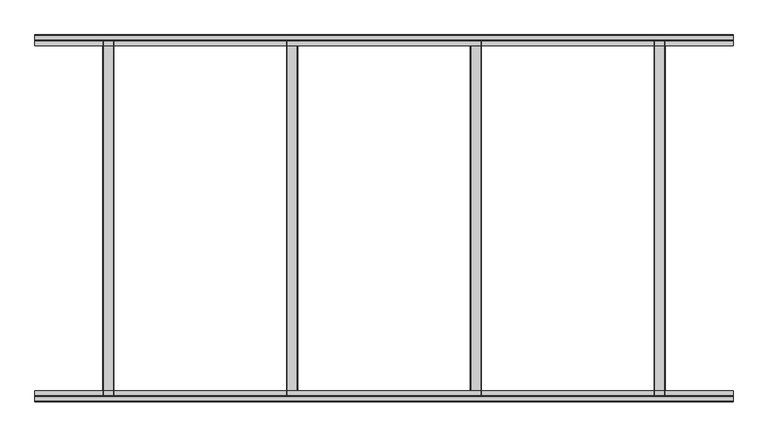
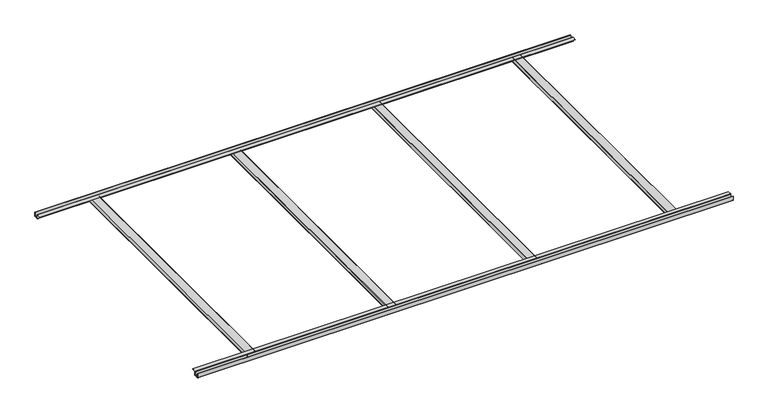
"""IFC4 building model written with IfcOpenShell, lengths in millimetres: proxy geometry, durlum_dur_SOLO_TYPE4 : durlum_dur_SOLO_TYPE4."""

from ifc_helpers import new_model, si_unit, point, frame, frame_2d, origin, place, context, project, spatial, polyline, circle_curve, trimmed, segment, composite_curve, outline, extrude, source, transform, mapped, element, save


def generic_models_94a974c4(model_context):
    return source(origin(), model_context, "Body", "SweptSolid", [
        extrude(outline(composite_curve([segment(polyline([(1719.0, -528.5), (1719.0, -518.0), (1720.5, -518.0), (1720.5, -528.5), (1747.5, -528.5), (1747.5, -471.5), (1720.5, -471.5), (1720.5, -482.0), (1719.0, -482.0), (1719.0, -471.5)]), True, "CONTINUOUS"), segment(trimmed(circle_curve(frame_2d((1720.5, -471.5)), 1.5), [point((1719.0, -471.5))], [point((1720.5, -470.0))], False, "CARTESIAN"), True, "CONTINUOUS"), segment(polyline([(1720.5, -470.0), (1747.5, -470.0)]), True, "CONTINUOUS"), segment(trimmed(circle_curve(frame_2d((1747.5, -471.5)), 1.5), [point((1747.5, -470.0))], [point((1749.0, -471.5))], False, "CARTESIAN"), True, "CONTINUOUS"), segment(polyline([(1749.0, -471.5), (1749.0, -528.5)]), True, "CONTINUOUS"), segment(trimmed(circle_curve(frame_2d((1747.5, -528.5)), 1.5), [point((1749.0, -528.5))], [point((1747.5, -530.0))], False, "CARTESIAN"), True, "CONTINUOUS"), segment(polyline([(1747.5, -530.0), (1720.5, -530.0)]), True, "CONTINUOUS"), segment(trimmed(circle_curve(frame_2d((1720.5, -528.5)), 1.5), [point((1720.5, -530.0))], [point((1719.0, -528.5))], False, "CARTESIAN"), True, "CONTINUOUS")], self_intersect=False)), frame((0.0, -967.0, 0.0), z_axis=(0.0, 1.0, 0.0), x_axis=(0.0, 0.0, 1.0)), (0.0, 0.0, 1.0), 1934.0),
        extrude(outline(composite_curve([segment(polyline([(1719.0, 471.5), (1719.0, 482.0), (1720.5, 482.0), (1720.5, 471.5), (1747.5, 471.5), (1747.5, 528.5), (1720.5, 528.5), (1720.5, 518.0), (1719.0, 518.0), (1719.0, 528.5)]), True, "CONTINUOUS"), segment(trimmed(circle_curve(frame_2d((1720.5, 528.5)), 1.5), [point((1719.0, 528.5))], [point((1720.5, 530.0))], False, "CARTESIAN"), True, "CONTINUOUS"), segment(polyline([(1720.5, 530.0), (1747.5, 530.0)]), True, "CONTINUOUS"), segment(trimmed(circle_curve(frame_2d((1747.5, 528.5)), 1.5), [point((1747.5, 530.0))], [point((1749.0, 528.5))], False, "CARTESIAN"), True, "CONTINUOUS"), segment(polyline([(1749.0, 528.5), (1749.0, 471.5)]), True, "CONTINUOUS"), segment(trimmed(circle_curve(frame_2d((1747.5, 471.5)), 1.5), [point((1749.0, 471.5))], [point((1747.5, 470.0))], False, "CARTESIAN"), True, "CONTINUOUS"), segment(polyline([(1747.5, 470.0), (1720.5, 470.0)]), True, "CONTINUOUS"), segment(trimmed(circle_curve(frame_2d((1720.5, 471.5)), 1.5), [point((1720.5, 470.0))], [point((1719.0, 471.5))], False, "CARTESIAN"), True, "CONTINUOUS")], self_intersect=False)), frame((0.0, -967.0, 0.0), z_axis=(0.0, 1.0, 0.0), x_axis=(0.0, 0.0, 1.0)), (0.0, 0.0, 1.0), 1934.0),
        extrude(outline(composite_curve([segment(polyline([(1719.0, -1528.5), (1719.0, -1518.0), (1720.5, -1518.0), (1720.5, -1528.5), (1747.5, -1528.5), (1747.5, -1471.5), (1720.5, -1471.5), (1720.5, -1482.0), (1719.0, -1482.0), (1719.0, -1471.5)]), True, "CONTINUOUS"), segment(trimmed(circle_curve(frame_2d((1720.5, -1471.5)), 1.5), [point((1719.0, -1471.5))], [point((1720.5, -1470.0))], False, "CARTESIAN"), True, "CONTINUOUS"), segment(polyline([(1720.5, -1470.0), (1747.5, -1470.0)]), True, "CONTINUOUS"), segment(trimmed(circle_curve(frame_2d((1747.5, -1471.5)), 1.5), [point((1747.5, -1470.0))], [point((1749.0, -1471.5))], False, "CARTESIAN"), True, "CONTINUOUS"), segment(polyline([(1749.0, -1471.5), (1749.0, -1528.5)]), True, "CONTINUOUS"), segment(trimmed(circle_curve(frame_2d((1747.5, -1528.5)), 1.5), [point((1749.0, -1528.5))], [point((1747.5, -1530.0))], False, "CARTESIAN"), True, "CONTINUOUS"), segment(polyline([(1747.5, -1530.0), (1720.5, -1530.0)]), True, "CONTINUOUS"), segment(trimmed(circle_curve(frame_2d((1720.5, -1528.5)), 1.5), [point((1720.5, -1530.0))], [point((1719.0, -1528.5))], False, "CARTESIAN"), True, "CONTINUOUS")], self_intersect=False)), frame((0.0, -967.0, 0.0), z_axis=(0.0, 1.0, 0.0), x_axis=(0.0, 0.0, 1.0)), (0.0, 0.0, 1.0), 1934.0),
        extrude(outline(composite_curve([segment(polyline([(1719.0, 1471.5), (1719.0, 1482.0), (1720.5, 1482.0), (1720.5, 1471.5), (1747.5, 1471.5), (1747.5, 1528.5), (1720.5, 1528.5), (1720.5, 1518.0), (1719.0, 1518.0), (1719.0, 1528.5)]), True, "CONTINUOUS"), segment(trimmed(circle_curve(frame_2d((1720.5, 1528.5)), 1.5), [point((1719.0, 1528.5))], [point((1720.5, 1530.0))], False, "CARTESIAN"), True, "CONTINUOUS"), segment(polyline([(1720.5, 1530.0), (1747.5, 1530.0)]), True, "CONTINUOUS"), segment(trimmed(circle_curve(frame_2d((1747.5, 1528.5)), 1.5), [point((1747.5, 1530.0))], [point((1749.0, 1528.5))], False, "CARTESIAN"), True, "CONTINUOUS"), segment(polyline([(1749.0, 1528.5), (1749.0, 1471.5)]), True, "CONTINUOUS"), segment(trimmed(circle_curve(frame_2d((1747.5, 1471.5)), 1.5), [point((1749.0, 1471.5))], [point((1747.5, 1470.0))], False, "CARTESIAN"), True, "CONTINUOUS"), segment(polyline([(1747.5, 1470.0), (1720.5, 1470.0)]), True, "CONTINUOUS"), segment(trimmed(circle_curve(frame_2d((1720.5, 1471.5)), 1.5), [point((1720.5, 1470.0))], [point((1719.0, 1471.5))], False, "CARTESIAN"), True, "CONTINUOUS")], self_intersect=False)), frame((0.0, -967.0, 0.0), z_axis=(0.0, 1.0, 0.0), x_axis=(0.0, 0.0, 1.0)), (0.0, 0.0, 1.0), 1934.0),
        extrude(outline(composite_curve([segment(polyline([(-999.4, 1721.6), (-999.4, 1750.3), (-998.1, 1750.3), (-998.1, 1721.6), (-969.4, 1721.6), (-969.4, 1749.0)]), True, "CONTINUOUS"), segment(trimmed(circle_curve(frame_2d((-968.1, 1749.0)), 1.3), [point((-969.4, 1749.0))], [point((-968.1, 1750.3))], False, "CARTESIAN"), True, "CONTINUOUS"), segment(polyline([(-968.1, 1750.3), (-939.4, 1750.3), (-939.4, 1749.0), (-968.1, 1749.0), (-968.1, 1721.6)]), True, "CONTINUOUS"), segment(trimmed(circle_curve(frame_2d((-969.4, 1721.6)), 1.3), [point((-968.1, 1721.6))], [point((-969.4, 1720.3))], False, "CARTESIAN"), True, "CONTINUOUS"), segment(polyline([(-969.4, 1720.3), (-998.1, 1720.3)]), True, "CONTINUOUS"), segment(trimmed(circle_curve(frame_2d((-998.1, 1721.6)), 1.3), [point((-998.1, 1720.3))], [point((-999.4, 1721.6))], False, "CARTESIAN"), True, "CONTINUOUS")], self_intersect=False)), frame((-1900.0, 0.0, 0.0), z_axis=(1.0, 0.0, 0.0), x_axis=(0.0, 1.0, 0.0)), (0.0, 0.0, 1.0), 3800.0),
        extrude(outline(composite_curve([segment(trimmed(circle_curve(frame_2d((998.1, 1721.6)), 1.3), [point((999.4, 1721.6))], [point((998.1, 1720.3))], False, "CARTESIAN"), True, "CONTINUOUS"), segment(polyline([(998.1, 1720.3), (969.4, 1720.3)]), True, "CONTINUOUS"), segment(trimmed(circle_curve(frame_2d((969.4, 1721.6)), 1.3), [point((969.4, 1720.3))], [point((968.1, 1721.6))], False, "CARTESIAN"), True, "CONTINUOUS"), segment(polyline([(968.1, 1721.6), (968.1, 1749.0), (939.4, 1749.0), (939.4, 1750.3), (968.1, 1750.3)]), True, "CONTINUOUS"), segment(trimmed(circle_curve(frame_2d((968.1, 1749.0)), 1.3), [point((968.1, 1750.3))], [point((969.4, 1749.0))], False, "CARTESIAN"), True, "CONTINUOUS"), segment(polyline([(969.4, 1749.0), (969.4, 1721.6), (998.1, 1721.6), (998.1, 1750.3), (999.4, 1750.3), (999.4, 1721.6)]), True, "CONTINUOUS")], self_intersect=False)), frame((-1900.0, 0.0, 0.0), z_axis=(1.0, 0.0, 0.0), x_axis=(0.0, 1.0, 0.0)), (0.0, 0.0, 1.0), 3800.0),
    ])


if __name__ == "__main__":
    model = new_model("IFC4")
    model_context = context("Model", 3, world=origin())
    ifc_project = project(units=[si_unit("LENGTHUNIT", "METRE", prefix="MILLI")], contexts=[model_context])
    site = spatial("IfcSite", under=ifc_project)
    building = spatial("IfcBuilding", under=site)
    placement = place(None, origin())
    generic_models_shape = generic_models_94a974c4(model_context)
    element("IfcBuildingElementProxy", 1, Name="durlum_dur_SOLO_TYPE4 : durlum_dur_SOLO_TYPE4", ObjectType="durlum_dur_SOLO_TYPE4 : durlum_dur_SOLO_TYPE4", at=placement, inside=building, context=model_context, shape_type="MappedRepresentation", body=[
        mapped(generic_models_shape, transform((0.0, 0.0, 0.0), x_axis=(1.0, 0.0, 0.0), y_axis=(0.0, 1.0, 0.0), z_axis=(0.0, 0.0, 1.0))),
    ])
    save(model, "model.ifc")
